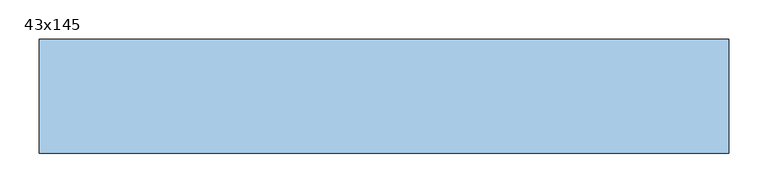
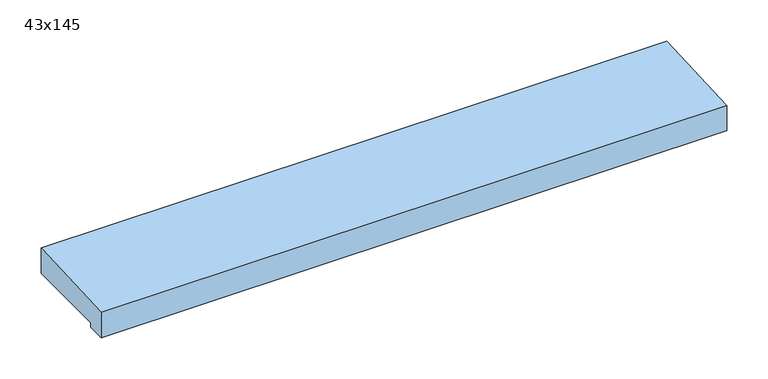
"""IFC4 building model written with IfcOpenShell, lengths in millimetres: window geometry, NLRS_30_WIN_spouwlat_bovendorpel-zonder-bovenrek_sh_gen_TOBA-JM : 43x145."""

from ifc_helpers import new_model, si_unit, frame, origin, place, context, project, spatial, polyline, outline, extrude, source, transform, mapped, element, save


def window_43x145_40ad70f9(model_context):
    return source(origin(), model_context, "Body", "SweptSolid", [
        extrude(outline(polyline([(145.0, 0.0), (25.0, 0.0), (25.0, -7.0), (0.0, -7.0), (0.0, 30.2068143), (145.0, 37.8059423), (145.0, 0.0)])), frame((-438.0, 0.0, 0.0), z_axis=(1.0, 0.0, 0.0), x_axis=(0.0, 1.0, 0.0)), (0.0, 0.0, 1.0), 876.0),
    ])


if __name__ == "__main__":
    model = new_model("IFC4")
    model_context = context("Model", 3, world=origin())
    ifc_project = project(units=[si_unit("LENGTHUNIT", "METRE", prefix="MILLI")], contexts=[model_context])
    site = spatial("IfcSite", under=ifc_project)
    building = spatial("IfcBuilding", under=site)
    placement = place(None, origin())
    window_43x145_shape = window_43x145_40ad70f9(model_context)
    element("IfcWindow", 1, ObjectType="NLRS_30_WIN_spouwlat_bovendorpel-zonder-bovenrek_sh_gen_TOBA-JM : 43x145", at=placement, inside=building, context=model_context, shape_type="MappedRepresentation", body=[
        mapped(window_43x145_shape, transform((0.0, 0.0, 0.0), x_axis=(1.0, 0.0, 0.0), y_axis=(0.0, 1.0, 0.0), z_axis=(0.0, 0.0, 1.0))),
    ])
    save(model, "model.ifc")
